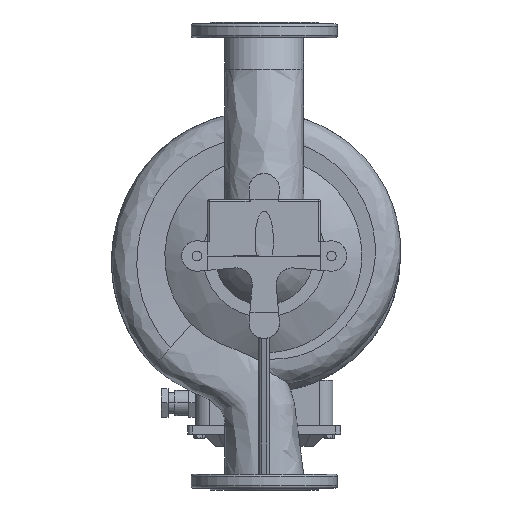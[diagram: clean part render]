
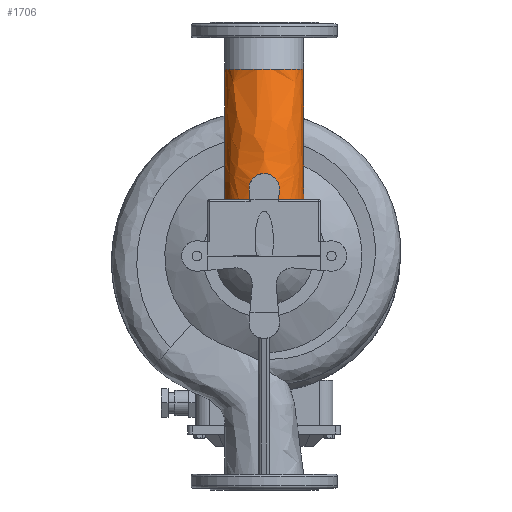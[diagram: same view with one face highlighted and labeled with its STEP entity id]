
A CAD part, front view. The second image highlights one B-rep face of the part: STEP entity #1706.
In plain terms, the highlighted free-form (B-spline) face has degree [3, 3] with [7, 4] control points.
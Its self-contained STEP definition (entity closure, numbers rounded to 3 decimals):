
#509=(
BOUNDED_SURFACE()
B_SPLINE_SURFACE(3,3,((#39716,#39717,#39718,#39719),(#39720,#39721,#39722,
#39723),(#39724,#39725,#39726,#39727),(#39728,#39729,#39730,#39731),(#39732,
#39733,#39734,#39735),(#39736,#39737,#39738,#39739),(#39740,#39741,#39742,
#39743)),.UNSPECIFIED.,.T.,.F.,.F.)
B_SPLINE_SURFACE_WITH_KNOTS((1,3,3,3,1),(4,4),(-0.5,0.,0.5,1.,1.5),(0.,
1.),.UNSPECIFIED.)
GEOMETRIC_REPRESENTATION_ITEM()
RATIONAL_B_SPLINE_SURFACE(((1.,0.984,0.984,1.),
(0.333,0.328,0.328,0.333),
(0.333,0.328,0.328,0.333),
(1.,0.984,0.984,1.),(0.333,0.328,
0.328,0.333),(0.333,0.328,
0.328,0.333),(1.,0.984,0.984,
1.)))
REPRESENTATION_ITEM('')
SURFACE()
);
#534=(
BOUNDED_CURVE()
B_SPLINE_CURVE(3,(#39655,#39656,#39657,#39658),.UNSPECIFIED.,.F.,.F.)
B_SPLINE_CURVE_WITH_KNOTS((4,4),(0.,1.),.UNSPECIFIED.)
CURVE()
GEOMETRIC_REPRESENTATION_ITEM()
RATIONAL_B_SPLINE_CURVE((0.988,0.989,0.993,
1.))
REPRESENTATION_ITEM('')
);
#535=(
BOUNDED_CURVE()
B_SPLINE_CURVE(3,(#39659,#39660,#39661,#39662),.UNSPECIFIED.,.F.,.F.)
B_SPLINE_CURVE_WITH_KNOTS((4,4),(0.,1.),.UNSPECIFIED.)
CURVE()
GEOMETRIC_REPRESENTATION_ITEM()
RATIONAL_B_SPLINE_CURVE((0.988,0.989,0.993,
1.))
REPRESENTATION_ITEM('')
);
#1706=ADVANCED_FACE('',(#3757),#509,.F.);
#3757=FACE_OUTER_BOUND('',#5259,.T.);
#5259=EDGE_LOOP('',(#12244,#12245,#12246,#12247,#12248,#12249,#12250,#12251,
#12252,#12253));
#7114=CIRCLE('',#27622,67.5);
#7139=CIRCLE('',#27658,694.624);
#7140=CIRCLE('',#27659,694.624);
#12244=ORIENTED_EDGE('',*,*,#22894,.T.);
#12245=ORIENTED_EDGE('',*,*,#22895,.T.);
#12246=ORIENTED_EDGE('',*,*,#22841,.T.);
#12247=ORIENTED_EDGE('',*,*,#22896,.F.);
#12248=ORIENTED_EDGE('',*,*,#22897,.F.);
#12249=ORIENTED_EDGE('',*,*,#22898,.T.);
#12250=ORIENTED_EDGE('',*,*,#22899,.T.);
#12251=ORIENTED_EDGE('',*,*,#22900,.T.);
#12252=ORIENTED_EDGE('',*,*,#22901,.T.);
#12253=ORIENTED_EDGE('',*,*,#22902,.T.);
#20247=VERTEX_POINT('',#39484);
#20248=VERTEX_POINT('',#39485);
#20295=VERTEX_POINT('',#39653);
#20296=VERTEX_POINT('',#39654);
#20297=VERTEX_POINT('',#39663);
#20298=VERTEX_POINT('',#39665);
#20299=VERTEX_POINT('',#39674);
#20300=VERTEX_POINT('',#39679);
#20301=VERTEX_POINT('',#39698);
#20302=VERTEX_POINT('',#39703);
#22841=EDGE_CURVE('',#20247,#20248,#7114,.T.);
#22894=EDGE_CURVE('',#20295,#20296,#7139,.T.);
#22895=EDGE_CURVE('',#20296,#20247,#534,.T.);
#22896=EDGE_CURVE('',#20297,#20248,#535,.T.);
#22897=EDGE_CURVE('',#20298,#20297,#7140,.T.);
#22898=EDGE_CURVE('',#20298,#20299,#26756,.T.);
#22899=EDGE_CURVE('',#20299,#20300,#26757,.T.);
#22900=EDGE_CURVE('',#20300,#20301,#26758,.T.);
#22901=EDGE_CURVE('',#20301,#20302,#26759,.T.);
#22902=EDGE_CURVE('',#20302,#20295,#26760,.T.);
#26756=B_SPLINE_CURVE_WITH_KNOTS('',3,(#39666,#39667,#39668,#39669,#39670,
#39671,#39672,#39673),.UNSPECIFIED.,.F.,.F.,(4,2,2,4),(0.,0.25,0.5,1.),
 .UNSPECIFIED.);
#26757=B_SPLINE_CURVE_WITH_KNOTS('',3,(#39675,#39676,#39677,#39678),
 .UNSPECIFIED.,.F.,.F.,(4,4),(0.,1.),.UNSPECIFIED.);
#26758=B_SPLINE_CURVE_WITH_KNOTS('',3,(#39680,#39681,#39682,#39683,#39684,
#39685,#39686,#39687,#39688,#39689,#39690,#39691,#39692,#39693,#39694,#39695,
#39696,#39697),.UNSPECIFIED.,.F.,.F.,(4,2,2,2,2,2,2,2,4),(0.,0.125,0.25,
0.375,0.5,0.625,0.75,0.875,1.),.UNSPECIFIED.);
#26759=B_SPLINE_CURVE_WITH_KNOTS('',3,(#39699,#39700,#39701,#39702),
 .UNSPECIFIED.,.F.,.F.,(4,4),(0.,1.),.UNSPECIFIED.);
#26760=B_SPLINE_CURVE_WITH_KNOTS('',3,(#39704,#39705,#39706,#39707,#39708,
#39709,#39710,#39711,#39712,#39713,#39714,#39715),.UNSPECIFIED.,.F.,.F.,
(4,2,2,2,2,4),(0.,0.25,0.375,0.5,0.75,1.),.UNSPECIFIED.);
#27622=AXIS2_PLACEMENT_3D('',#39483,#30886,#30887);
#27658=AXIS2_PLACEMENT_3D('',#39652,#30983,#30984);
#27659=AXIS2_PLACEMENT_3D('',#39664,#30985,#30986);
#30886=DIRECTION('',(0.,0.,-1.));
#30887=DIRECTION('',(-1.,0.,0.));
#30983=DIRECTION('',(-1.,0.,0.));
#30984=DIRECTION('',(0.,0.,1.));
#30985=DIRECTION('',(-1.,0.,0.));
#30986=DIRECTION('',(0.,0.,1.));
#39483=CARTESIAN_POINT('',(0.,-24.919,319.561));
#39484=CARTESIAN_POINT('',(67.5,-24.919,319.561));
#39485=CARTESIAN_POINT('',(-67.5,-24.919,319.561));
#39652=CARTESIAN_POINT('',(67.5,604.624,26.));
#39653=CARTESIAN_POINT('',(67.5,-86.413,96.5));
#39654=CARTESIAN_POINT('',(67.5,-70.965,187.5));
#39655=CARTESIAN_POINT('',(67.5,-70.965,187.5));
#39656=CARTESIAN_POINT('',(67.5,-60.067,233.086));
#39657=CARTESIAN_POINT('',(67.5,-44.649,277.25));
#39658=CARTESIAN_POINT('',(67.5,-24.919,319.561));
#39659=CARTESIAN_POINT('',(-67.5,-70.965,187.5));
#39660=CARTESIAN_POINT('',(-67.5,-60.067,233.086));
#39661=CARTESIAN_POINT('',(-67.5,-44.649,277.25));
#39662=CARTESIAN_POINT('',(-67.5,-24.919,319.561));
#39663=CARTESIAN_POINT('',(-67.5,-70.965,187.5));
#39664=CARTESIAN_POINT('',(-67.5,604.624,26.));
#39665=CARTESIAN_POINT('',(-67.5,-86.413,96.5));
#39666=CARTESIAN_POINT('',(-67.5,-86.413,96.5));
#39667=CARTESIAN_POINT('',(-67.5,-92.865,96.5));
#39668=CARTESIAN_POINT('',(-66.413,-99.129,96.5));
#39669=CARTESIAN_POINT('',(-62.161,-111.294,96.5));
#39670=CARTESIAN_POINT('',(-59.1,-116.887,96.5));
#39671=CARTESIAN_POINT('',(-47.363,-132.218,96.5));
#39672=CARTESIAN_POINT('',(-36.6,-139.808,96.5));
#39673=CARTESIAN_POINT('',(-24.481,-144.169,96.5));
#39674=CARTESIAN_POINT('',(-24.481,-144.169,96.5));
#39675=CARTESIAN_POINT('',(-24.481,-144.169,96.5));
#39676=CARTESIAN_POINT('',(-24.955,-143.488,101.92));
#39677=CARTESIAN_POINT('',(-25.428,-142.743,107.331));
#39678=CARTESIAN_POINT('',(-25.901,-141.933,112.734));
#39679=CARTESIAN_POINT('',(-25.901,-141.933,112.734));
#39680=CARTESIAN_POINT('',(-25.901,-141.933,112.734));
#39681=CARTESIAN_POINT('',(-26.215,-141.396,116.317));
#39682=CARTESIAN_POINT('',(-25.777,-141.126,119.949));
#39683=CARTESIAN_POINT('',(-23.467,-141.078,126.757));
#39684=CARTESIAN_POINT('',(-21.584,-141.293,129.931));
#39685=CARTESIAN_POINT('',(-16.75,-141.872,135.205));
#39686=CARTESIAN_POINT('',(-13.773,-142.23,137.343));
#39687=CARTESIAN_POINT('',(-7.192,-142.756,140.243));
#39688=CARTESIAN_POINT('',(-3.614,-142.92,141.002));
#39689=CARTESIAN_POINT('',(3.638,-142.92,140.998));
#39690=CARTESIAN_POINT('',(7.221,-142.754,140.233));
#39691=CARTESIAN_POINT('',(13.778,-142.229,137.338));
#39692=CARTESIAN_POINT('',(16.765,-141.87,135.192));
#39693=CARTESIAN_POINT('',(21.59,-141.293,129.922));
#39694=CARTESIAN_POINT('',(23.47,-141.077,126.752));
#39695=CARTESIAN_POINT('',(25.779,-141.127,119.938));
#39696=CARTESIAN_POINT('',(26.215,-141.396,116.317));
#39697=CARTESIAN_POINT('',(25.901,-141.933,112.734));
#39698=CARTESIAN_POINT('',(25.901,-141.933,112.734));
#39699=CARTESIAN_POINT('',(25.901,-141.933,112.734));
#39700=CARTESIAN_POINT('',(25.428,-142.743,107.331));
#39701=CARTESIAN_POINT('',(24.955,-143.488,101.92));
#39702=CARTESIAN_POINT('',(24.481,-144.169,96.5));
#39703=CARTESIAN_POINT('',(24.481,-144.169,96.5));
#39704=CARTESIAN_POINT('',(24.481,-144.169,96.5));
#39705=CARTESIAN_POINT('',(30.547,-141.986,96.5));
#39706=CARTESIAN_POINT('',(36.188,-139.042,96.5));
#39707=CARTESIAN_POINT('',(43.991,-133.453,96.5));
#39708=CARTESIAN_POINT('',(46.486,-131.38,96.5));
#39709=CARTESIAN_POINT('',(51.077,-126.956,96.5));
#39710=CARTESIAN_POINT('',(53.196,-124.592,96.5));
#39711=CARTESIAN_POINT('',(59.005,-117.026,96.5));
#39712=CARTESIAN_POINT('',(62.151,-111.291,96.5));
#39713=CARTESIAN_POINT('',(66.361,-99.305,96.5));
#39714=CARTESIAN_POINT('',(67.5,-92.876,96.5));
#39715=CARTESIAN_POINT('',(67.5,-86.413,96.5));
#39716=CARTESIAN_POINT('',(-67.5,-90.,26.));
#39717=CARTESIAN_POINT('',(-67.5,-90.,127.839));
#39718=CARTESIAN_POINT('',(-67.5,-67.958,227.263));
#39719=CARTESIAN_POINT('',(-67.5,-24.919,319.561));
#39720=CARTESIAN_POINT('',(-67.5,32.352,83.053));
#39721=CARTESIAN_POINT('',(-67.5,40.716,166.954));
#39722=CARTESIAN_POINT('',(-67.5,67.042,247.056));
#39723=CARTESIAN_POINT('',(-67.5,110.081,319.561));
#39724=CARTESIAN_POINT('',(67.5,32.352,83.053));
#39725=CARTESIAN_POINT('',(67.5,40.716,166.954));
#39726=CARTESIAN_POINT('',(67.5,67.042,247.056));
#39727=CARTESIAN_POINT('',(67.5,110.081,319.561));
#39728=CARTESIAN_POINT('',(67.5,-90.,26.));
#39729=CARTESIAN_POINT('',(67.5,-90.,127.839));
#39730=CARTESIAN_POINT('',(67.5,-67.958,227.263));
#39731=CARTESIAN_POINT('',(67.5,-24.919,319.561));
#39732=CARTESIAN_POINT('',(67.5,-212.352,-31.053));
#39733=CARTESIAN_POINT('',(67.5,-220.716,88.723));
#39734=CARTESIAN_POINT('',(67.5,-202.958,207.471));
#39735=CARTESIAN_POINT('',(67.5,-159.919,319.561));
#39736=CARTESIAN_POINT('',(-67.5,-212.352,-31.053));
#39737=CARTESIAN_POINT('',(-67.5,-220.716,88.723));
#39738=CARTESIAN_POINT('',(-67.5,-202.958,207.471));
#39739=CARTESIAN_POINT('',(-67.5,-159.919,319.561));
#39740=CARTESIAN_POINT('',(-67.5,-90.,26.));
#39741=CARTESIAN_POINT('',(-67.5,-90.,127.839));
#39742=CARTESIAN_POINT('',(-67.5,-67.958,227.263));
#39743=CARTESIAN_POINT('',(-67.5,-24.919,319.561));
